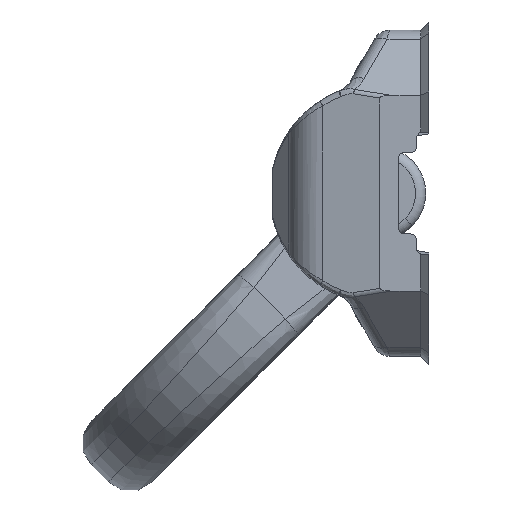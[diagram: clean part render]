
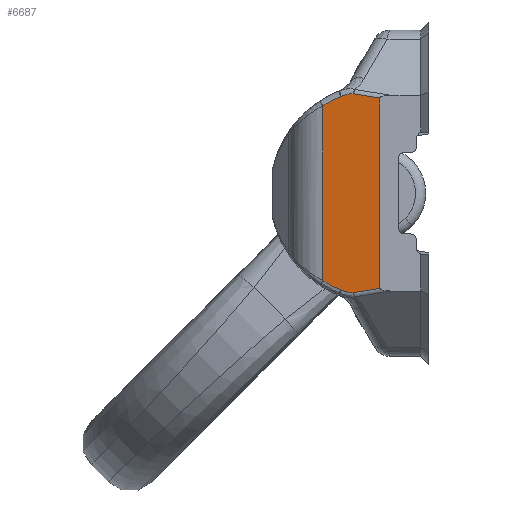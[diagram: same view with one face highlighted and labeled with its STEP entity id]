
A CAD part, left-side view. The second image highlights one B-rep face of the part: STEP entity #6687.
In plain terms, the highlighted planar face has unit normal (-0.988, 0.156, 0).
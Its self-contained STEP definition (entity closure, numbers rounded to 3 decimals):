
#110=DIRECTION('',(0.,0.,1.));
#111=VECTOR('',#110,93.441);
#112=CARTESIAN_POINT('',(-80.,24.,-46.72));
#113=LINE('',#112,#111);
#575=DIRECTION('',(0.155,0.976,0.155));
#576=VECTOR('',#575,13.266);
#577=CARTESIAN_POINT('',(-80.,24.,46.72));
#578=LINE('',#577,#576);
#594=CARTESIAN_POINT('',(-76.93,43.384,47.363));
#595=CARTESIAN_POINT('',(-76.77,44.392,46.96));
#596=CARTESIAN_POINT('',(-76.456,46.378,46.093));
#597=CARTESIAN_POINT('',(-75.997,49.272,44.602));
#598=CARTESIAN_POINT('',(-75.703,51.129,43.491));
#599=CARTESIAN_POINT('',(-75.559,52.041,42.905));
#648=DIRECTION('',(0.,0.,-1.));
#649=VECTOR('',#648,85.809);
#650=CARTESIAN_POINT('',(-75.559,52.041,42.905));
#651=LINE('',#650,#649);
#665=CARTESIAN_POINT('',(-75.559,52.041,-42.905));
#687=CARTESIAN_POINT('',(-75.559,52.041,-42.905));
#688=CARTESIAN_POINT('',(-75.703,51.129,-43.491));
#689=CARTESIAN_POINT('',(-75.997,49.272,-44.602));
#690=CARTESIAN_POINT('',(-76.456,46.378,-46.093));
#691=CARTESIAN_POINT('',(-76.77,44.392,-46.96));
#692=CARTESIAN_POINT('',(-76.93,43.384,-47.363));
#711=CARTESIAN_POINT('',(-76.93,43.384,-47.363));
#712=CARTESIAN_POINT('',(-76.94,43.32,-47.388));
#713=CARTESIAN_POINT('',(-76.96,43.191,-47.439));
#714=CARTESIAN_POINT('',(-76.981,43.061,-47.488));
#715=CARTESIAN_POINT('',(-76.991,42.995,-47.512));
#723=CARTESIAN_POINT('',(-76.991,42.995,-47.512));
#724=CARTESIAN_POINT('',(-77.037,42.706,-47.619));
#725=CARTESIAN_POINT('',(-77.132,42.107,-47.843));
#726=CARTESIAN_POINT('',(-77.291,41.101,-48.197));
#727=CARTESIAN_POINT('',(-77.45,40.102,-48.5));
#728=CARTESIAN_POINT('',(-77.596,39.175,-48.711));
#729=CARTESIAN_POINT('',(-77.729,38.341,-48.824));
#730=CARTESIAN_POINT('',(-77.847,37.593,-48.845));
#731=CARTESIAN_POINT('',(-77.917,37.152,-48.804));
#732=CARTESIAN_POINT('',(-77.95,36.946,-48.771));
#750=DIRECTION('',(-0.155,-0.976,0.155));
#751=VECTOR('',#750,13.266);
#752=CARTESIAN_POINT('',(-77.95,36.946,-48.771));
#753=LINE('',#752,#751);
#4059=CARTESIAN_POINT('',(-77.95,36.946,48.771));
#4060=CARTESIAN_POINT('',(-77.911,37.188,48.809));
#4061=CARTESIAN_POINT('',(-77.829,37.707,48.853));
#4062=CARTESIAN_POINT('',(-77.688,38.599,48.803));
#4063=CARTESIAN_POINT('',(-77.531,39.587,48.631));
#4064=CARTESIAN_POINT('',(-77.353,40.714,48.326));
#4065=CARTESIAN_POINT('',(-77.164,41.904,47.919));
#4066=CARTESIAN_POINT('',(-77.049,42.635,47.646));
#4067=CARTESIAN_POINT('',(-76.991,42.995,47.512));
#4079=CARTESIAN_POINT('',(-76.991,42.995,47.512));
#4080=CARTESIAN_POINT('',(-76.981,43.061,47.488));
#4081=CARTESIAN_POINT('',(-76.96,43.191,47.439));
#4082=CARTESIAN_POINT('',(-76.94,43.32,47.388));
#4083=CARTESIAN_POINT('',(-76.93,43.384,47.363));
#4455=VERTEX_POINT('',#594);
#4456=VERTEX_POINT('',#599);
#4479=VERTEX_POINT('',#665);
#4481=VERTEX_POINT('',#692);
#4483=CARTESIAN_POINT('',(-77.95,36.946,
-48.771));
#4484=CARTESIAN_POINT('',(-80.,24.,-46.72));
#4485=VERTEX_POINT('',#4483);
#4486=VERTEX_POINT('',#4484);
#4490=CARTESIAN_POINT('',(-80.,24.,46.72));
#4491=VERTEX_POINT('',#4490);
#4523=CARTESIAN_POINT('',(-77.95,36.946,48.771));
#4524=VERTEX_POINT('',#4523);
#4554=VERTEX_POINT('',#4079);
#4556=VERTEX_POINT('',#715);
#6662=CARTESIAN_POINT('',(-80.,24.,96.));
#6663=DIRECTION('',(0.988,-0.156,0.));
#6664=DIRECTION('',(0.156,0.988,0.));
#6665=AXIS2_PLACEMENT_3D('',#6662,#6663,#6664);
#6666=PLANE('',#6665);
#6668=ORIENTED_EDGE('',*,*,#6667,.F.);
#6670=ORIENTED_EDGE('',*,*,#6669,.F.);
#6672=ORIENTED_EDGE('',*,*,#6671,.F.);
#6673=ORIENTED_EDGE('',*,*,#6653,.F.);
#6674=ORIENTED_EDGE('',*,*,#5825,.F.);
#6676=ORIENTED_EDGE('',*,*,#6675,.F.);
#6678=ORIENTED_EDGE('',*,*,#6677,.F.);
#6680=ORIENTED_EDGE('',*,*,#6679,.F.);
#6682=ORIENTED_EDGE('',*,*,#6681,.F.);
#6684=ORIENTED_EDGE('',*,*,#6683,.F.);
#6685=EDGE_LOOP('',(#6668,#6670,#6672,#6673,#6674,#6676,#6678,#6680,#6682,
#6684));
#6686=FACE_OUTER_BOUND('',#6685,.F.);
#6687=ADVANCED_FACE('',(#6686),#6666,.F.);
#600=B_SPLINE_CURVE_WITH_KNOTS('',3,(#594,#595,#596,#597,#598,#599),
.UNSPECIFIED.,.F.,.F.,(4,1,1,4),(0.,0.333,0.667,1.),
.UNSPECIFIED.);
#693=B_SPLINE_CURVE_WITH_KNOTS('',3,(#687,#688,#689,#690,#691,#692),
.UNSPECIFIED.,.F.,.F.,(4,1,1,4),(0.,0.333,0.667,1.),
.UNSPECIFIED.);
#716=B_SPLINE_CURVE_WITH_KNOTS('',3,(#711,#712,#713,#714,#715),.UNSPECIFIED.,
.F.,.F.,(4,1,4),(0.,0.5,1.),.UNSPECIFIED.);
#733=B_SPLINE_CURVE_WITH_KNOTS('',3,(#723,#724,#725,#726,#727,#728,#729,#730,
#731,#732),.UNSPECIFIED.,.F.,.F.,(4,1,1,1,1,1,1,4),(0.,0.143,
0.286,0.429,0.571,0.714,
0.857,1.),.UNSPECIFIED.);
#4068=B_SPLINE_CURVE_WITH_KNOTS('',3,(#4059,#4060,#4061,#4062,#4063,#4064,#4065,
#4066,#4067),.UNSPECIFIED.,.F.,.F.,(4,1,1,1,1,1,4),(0.,0.167,
0.333,0.5,0.667,0.833,1.),
.UNSPECIFIED.);
#4084=B_SPLINE_CURVE_WITH_KNOTS('',3,(#4079,#4080,#4081,#4082,#4083),
.UNSPECIFIED.,.F.,.F.,(4,1,4),(0.,0.5,1.),.UNSPECIFIED.);
#5825=EDGE_CURVE('',#4486,#4491,#113,.T.);
#6653=EDGE_CURVE('',#4491,#4524,#578,.T.);
#6667=EDGE_CURVE('',#4455,#4456,#600,.T.);
#6669=EDGE_CURVE('',#4554,#4455,#4084,.T.);
#6671=EDGE_CURVE('',#4524,#4554,#4068,.T.);
#6675=EDGE_CURVE('',#4485,#4486,#753,.T.);
#6677=EDGE_CURVE('',#4556,#4485,#733,.T.);
#6679=EDGE_CURVE('',#4481,#4556,#716,.T.);
#6681=EDGE_CURVE('',#4479,#4481,#693,.T.);
#6683=EDGE_CURVE('',#4456,#4479,#651,.T.);
